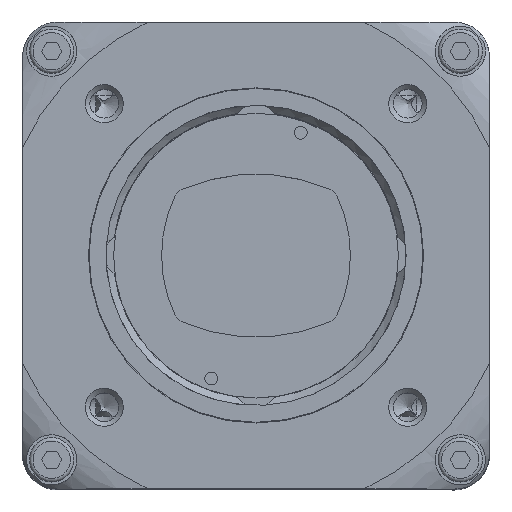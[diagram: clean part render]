
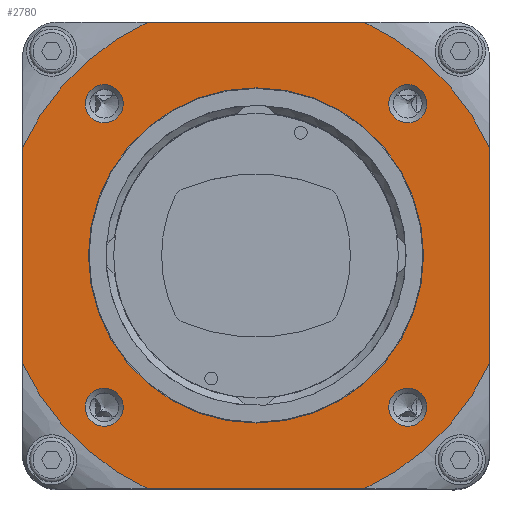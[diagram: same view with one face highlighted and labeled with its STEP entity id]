
A CAD part, top view. The second image highlights one B-rep face of the part: STEP entity #2780.
In plain terms, the highlighted planar face has unit normal (0, 0, 1).
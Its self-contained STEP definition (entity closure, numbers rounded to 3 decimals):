
#2780 = ADVANCED_FACE( '', ( #8212, #8213, #8214, #8215, #8216, #8217 ), #8218, .F. );
#8212 = FACE_BOUND( '', #16744, .T. );
#8213 = FACE_BOUND( '', #16745, .T. );
#8214 = FACE_BOUND( '', #16746, .T. );
#8215 = FACE_BOUND( '', #16747, .T. );
#8216 = FACE_BOUND( '', #16748, .T. );
#8217 = FACE_OUTER_BOUND( '', #16749, .T. );
#8218 = PLANE( '', #16750 );
#16744 = EDGE_LOOP( '', ( #27575 ) );
#16745 = EDGE_LOOP( '', ( #27576 ) );
#16746 = EDGE_LOOP( '', ( #27577 ) );
#16747 = EDGE_LOOP( '', ( #27578 ) );
#16748 = EDGE_LOOP( '', ( #27579 ) );
#16749 = EDGE_LOOP( '', ( #27580, #27581, #27582, #27583, #27584, #27585, #27586, #27587 ) );
#16750 = AXIS2_PLACEMENT_3D( '', #27588, #27589, #27590 );
#27575 = ORIENTED_EDGE( '', *, *, #52338, .T. );
#27576 = ORIENTED_EDGE( '', *, *, #52339, .T. );
#27577 = ORIENTED_EDGE( '', *, *, #52340, .T. );
#27578 = ORIENTED_EDGE( '', *, *, #52341, .T. );
#27579 = ORIENTED_EDGE( '', *, *, #52342, .T. );
#27580 = ORIENTED_EDGE( '', *, *, #52343, .F. );
#27581 = ORIENTED_EDGE( '', *, *, #52344, .T. );
#27582 = ORIENTED_EDGE( '', *, *, #52345, .F. );
#27583 = ORIENTED_EDGE( '', *, *, #52346, .T. );
#27584 = ORIENTED_EDGE( '', *, *, #52347, .F. );
#27585 = ORIENTED_EDGE( '', *, *, #52348, .T. );
#27586 = ORIENTED_EDGE( '', *, *, #52349, .F. );
#27587 = ORIENTED_EDGE( '', *, *, #52350, .T. );
#27588 = CARTESIAN_POINT( '', ( 0., 0., 12.3 ) );
#27589 = DIRECTION( '', ( 0., 0., -1. ) );
#27590 = DIRECTION( '', ( -1., 0., 0. ) );
#52338 = EDGE_CURVE( '', #62195, #62195, #62196, .T. );
#52339 = EDGE_CURVE( '', #62197, #62197, #62198, .T. );
#52340 = EDGE_CURVE( '', #62199, #62199, #62200, .T. );
#52341 = EDGE_CURVE( '', #62201, #62201, #62202, .T. );
#52342 = EDGE_CURVE( '', #62203, #62203, #62204, .T. );
#52343 = EDGE_CURVE( '', #62205, #62206, #62207, .T. );
#52344 = EDGE_CURVE( '', #62205, #62208, #62209, .T. );
#52345 = EDGE_CURVE( '', #62210, #62208, #62211, .T. );
#52346 = EDGE_CURVE( '', #62210, #62212, #62213, .T. );
#52347 = EDGE_CURVE( '', #62214, #62212, #62215, .T. );
#52348 = EDGE_CURVE( '', #62214, #62216, #62217, .T. );
#52349 = EDGE_CURVE( '', #62218, #62216, #62219, .T. );
#52350 = EDGE_CURVE( '', #62218, #62206, #62220, .T. );
#62195 = VERTEX_POINT( '', #76681 );
#62196 = CIRCLE( '', #76682, 1.63 );
#62197 = VERTEX_POINT( '', #76683 );
#62198 = CIRCLE( '', #76684, 1.63 );
#62199 = VERTEX_POINT( '', #76685 );
#62200 = CIRCLE( '', #76686, 1.63 );
#62201 = VERTEX_POINT( '', #76687 );
#62202 = CIRCLE( '', #76688, 1.63 );
#62203 = VERTEX_POINT( '', #76689 );
#62204 = CIRCLE( '', #76690, 14.35 );
#62205 = VERTEX_POINT( '', #76691 );
#62206 = VERTEX_POINT( '', #76692 );
#62207 = LINE( '', #76693, #76694 );
#62208 = VERTEX_POINT( '', #76695 );
#62209 = CIRCLE( '', #76696, 22.031 );
#62210 = VERTEX_POINT( '', #76697 );
#62211 = LINE( '', #76698, #76699 );
#62212 = VERTEX_POINT( '', #76700 );
#62213 = CIRCLE( '', #76701, 22.031 );
#62214 = VERTEX_POINT( '', #76702 );
#62215 = LINE( '', #76703, #76704 );
#62216 = VERTEX_POINT( '', #76705 );
#62217 = CIRCLE( '', #76706, 22.031 );
#62218 = VERTEX_POINT( '', #76707 );
#62219 = LINE( '', #76708, #76709 );
#62220 = CIRCLE( '', #76710, 22.031 );
#76681 = CARTESIAN_POINT( '', ( 11.371, -13., 12.3 ) );
#76682 = AXIS2_PLACEMENT_3D( '', #98759, #98760, #98761 );
#76683 = CARTESIAN_POINT( '', ( -14.63, -13., 12.3 ) );
#76684 = AXIS2_PLACEMENT_3D( '', #98762, #98763, #98764 );
#76685 = CARTESIAN_POINT( '', ( -14.63, 13., 12.3 ) );
#76686 = AXIS2_PLACEMENT_3D( '', #98765, #98766, #98767 );
#76687 = CARTESIAN_POINT( '', ( 11.371, 13., 12.3 ) );
#76688 = AXIS2_PLACEMENT_3D( '', #98768, #98769, #98770 );
#76689 = CARTESIAN_POINT( '', ( 14.35, 0., 12.3 ) );
#76690 = AXIS2_PLACEMENT_3D( '', #98771, #98772, #98773 );
#76691 = CARTESIAN_POINT( '', ( -9.238, 20., 12.3 ) );
#76692 = CARTESIAN_POINT( '', ( 9.238, 20., 12.3 ) );
#76693 = CARTESIAN_POINT( '', ( -20., 20., 12.3 ) );
#76694 = VECTOR( '', #98774, 1000. );
#76695 = CARTESIAN_POINT( '', ( -20., 9.238, 12.3 ) );
#76696 = AXIS2_PLACEMENT_3D( '', #98775, #98776, #98777 );
#76697 = CARTESIAN_POINT( '', ( -20., -9.238, 12.3 ) );
#76698 = CARTESIAN_POINT( '', ( -20., -20., 12.3 ) );
#76699 = VECTOR( '', #98778, 1000. );
#76700 = CARTESIAN_POINT( '', ( -9.238, -20., 12.3 ) );
#76701 = AXIS2_PLACEMENT_3D( '', #98779, #98780, #98781 );
#76702 = CARTESIAN_POINT( '', ( 9.238, -20., 12.3 ) );
#76703 = CARTESIAN_POINT( '', ( 20., -20., 12.3 ) );
#76704 = VECTOR( '', #98782, 1000. );
#76705 = CARTESIAN_POINT( '', ( 20., -9.238, 12.3 ) );
#76706 = AXIS2_PLACEMENT_3D( '', #98783, #98784, #98785 );
#76707 = CARTESIAN_POINT( '', ( 20., 9.238, 12.3 ) );
#76708 = CARTESIAN_POINT( '', ( 20., 20., 12.3 ) );
#76709 = VECTOR( '', #98786, 1000. );
#76710 = AXIS2_PLACEMENT_3D( '', #98787, #98788, #98789 );
#98759 = CARTESIAN_POINT( '', ( 13., -13., 12.3 ) );
#98760 = DIRECTION( '', ( 0., 0., -1. ) );
#98761 = DIRECTION( '', ( -1., 0., 0. ) );
#98762 = CARTESIAN_POINT( '', ( -13., -13., 12.3 ) );
#98763 = DIRECTION( '', ( 0., 0., -1. ) );
#98764 = DIRECTION( '', ( -1., 0., 0. ) );
#98765 = CARTESIAN_POINT( '', ( -13., 13., 12.3 ) );
#98766 = DIRECTION( '', ( 0., 0., -1. ) );
#98767 = DIRECTION( '', ( -1., 0., 0. ) );
#98768 = CARTESIAN_POINT( '', ( 13., 13., 12.3 ) );
#98769 = DIRECTION( '', ( 0., 0., -1. ) );
#98770 = DIRECTION( '', ( -1., 0., 0. ) );
#98771 = CARTESIAN_POINT( '', ( 0., 0., 12.3 ) );
#98772 = DIRECTION( '', ( 0., 0., -1. ) );
#98773 = DIRECTION( '', ( 1., 0., 0. ) );
#98774 = DIRECTION( '', ( 1., 0., 0. ) );
#98775 = CARTESIAN_POINT( '', ( 0., 0., 12.3 ) );
#98776 = DIRECTION( '', ( 0., 0., 1. ) );
#98777 = DIRECTION( '', ( 1., 0., 0. ) );
#98778 = DIRECTION( '', ( 0., 1., 0. ) );
#98779 = CARTESIAN_POINT( '', ( 0., 0., 12.3 ) );
#98780 = DIRECTION( '', ( 0., 0., 1. ) );
#98781 = DIRECTION( '', ( 1., 0., 0. ) );
#98782 = DIRECTION( '', ( -1., 0., 0. ) );
#98783 = CARTESIAN_POINT( '', ( 0., 0., 12.3 ) );
#98784 = DIRECTION( '', ( 0., 0., 1. ) );
#98785 = DIRECTION( '', ( 1., 0., 0. ) );
#98786 = DIRECTION( '', ( 0., -1., 0. ) );
#98787 = CARTESIAN_POINT( '', ( 0., 0., 12.3 ) );
#98788 = DIRECTION( '', ( 0., 0., 1. ) );
#98789 = DIRECTION( '', ( 1., 0., 0. ) );
